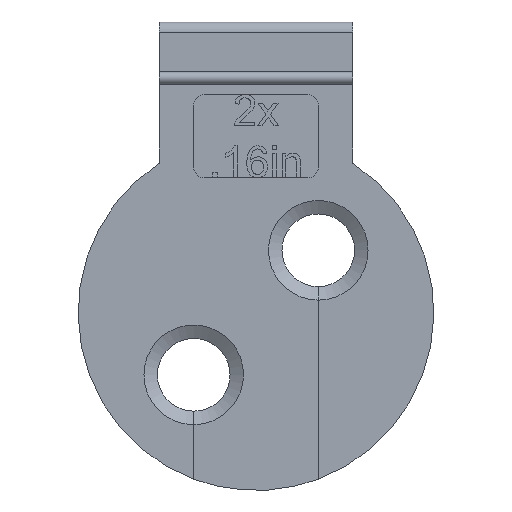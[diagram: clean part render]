
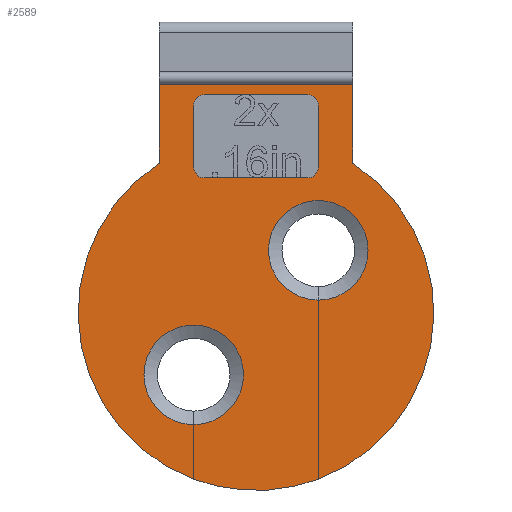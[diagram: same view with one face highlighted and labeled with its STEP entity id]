
A CAD part, left-side view. The second image highlights one B-rep face of the part: STEP entity #2589.
In plain terms, the highlighted planar face has unit normal (-1, 0, 0).
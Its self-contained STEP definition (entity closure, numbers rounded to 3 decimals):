
#75=FACE_BOUND('',#1023,.T.);
#343=LINE('',#4250,#595);
#346=LINE('',#4258,#598);
#349=LINE('',#4266,#601);
#352=LINE('',#4273,#604);
#359=LINE('',#4293,#611);
#363=LINE('',#4302,#615);
#375=LINE('',#4333,#627);
#379=LINE('',#4342,#631);
#390=LINE('',#4433,#642);
#399=LINE('',#4455,#651);
#402=LINE('',#4460,#654);
#595=VECTOR('',#3085,10.);
#598=VECTOR('',#3094,10.);
#601=VECTOR('',#3103,10.);
#604=VECTOR('',#3112,10.);
#611=VECTOR('',#3123,10.);
#615=VECTOR('',#3129,10.);
#627=VECTOR('',#3143,10.);
#631=VECTOR('',#3149,10.);
#642=VECTOR('',#3244,10.);
#651=VECTOR('',#3261,10.);
#654=VECTOR('',#3266,10.);
#744=PLANE('',#2755);
#875=FACE_OUTER_BOUND('',#1022,.T.);
#1022=EDGE_LOOP('',(#2361,#2362,#2363,#2364,#2365,#2366,#2367,#2368,#2369,
#2370,#2371,#2372));
#1023=EDGE_LOOP('',(#2373,#2374,#2375,#2376,#2377,#2378,#2379,#2380));
#1052=CIRCLE('',#2693,0.5);
#1053=CIRCLE('',#2696,0.5);
#1054=CIRCLE('',#2699,0.5);
#1055=CIRCLE('',#2702,0.5);
#1066=CIRCLE('',#2727,8.57);
#1072=CIRCLE('',#2733,8.57);
#1073=CIRCLE('',#2735,8.57);
#1076=CIRCLE('',#2741,2.4);
#1078=CIRCLE('',#2745,2.4);
#1255=VERTEX_POINT('',#4243);
#1256=VERTEX_POINT('',#4245);
#1257=VERTEX_POINT('',#4249);
#1258=VERTEX_POINT('',#4253);
#1259=VERTEX_POINT('',#4257);
#1260=VERTEX_POINT('',#4261);
#1261=VERTEX_POINT('',#4265);
#1262=VERTEX_POINT('',#4269);
#1269=VERTEX_POINT('',#4288);
#1270=VERTEX_POINT('',#4292);
#1273=VERTEX_POINT('',#4299);
#1274=VERTEX_POINT('',#4301);
#1285=VERTEX_POINT('',#4328);
#1286=VERTEX_POINT('',#4332);
#1289=VERTEX_POINT('',#4339);
#1290=VERTEX_POINT('',#4341);
#1296=VERTEX_POINT('',#4374);
#1305=VERTEX_POINT('',#4398);
#1313=VERTEX_POINT('',#4431);
#1322=VERTEX_POINT('',#4454);
#1583=EDGE_CURVE('',#1256,#1255,#1052,.T.);
#1585=EDGE_CURVE('',#1257,#1256,#343,.T.);
#1587=EDGE_CURVE('',#1258,#1257,#1053,.T.);
#1589=EDGE_CURVE('',#1259,#1258,#346,.T.);
#1591=EDGE_CURVE('',#1260,#1259,#1054,.T.);
#1593=EDGE_CURVE('',#1261,#1260,#349,.T.);
#1595=EDGE_CURVE('',#1262,#1261,#1055,.T.);
#1597=EDGE_CURVE('',#1255,#1262,#352,.T.);
#1605=EDGE_CURVE('',#1270,#1269,#359,.T.);
#1609=EDGE_CURVE('',#1274,#1273,#363,.T.);
#1623=EDGE_CURVE('',#1286,#1285,#375,.T.);
#1627=EDGE_CURVE('',#1290,#1289,#379,.T.);
#1644=EDGE_CURVE('',#1290,#1296,#1066,.T.);
#1654=EDGE_CURVE('',#1305,#1269,#1072,.T.);
#1655=EDGE_CURVE('',#1274,#1285,#1073,.T.);
#1658=EDGE_CURVE('',#1289,#1286,#1076,.T.);
#1660=EDGE_CURVE('',#1273,#1270,#1078,.T.);
#1669=EDGE_CURVE('',#1313,#1305,#390,.T.);
#1680=EDGE_CURVE('',#1322,#1313,#399,.T.);
#1683=EDGE_CURVE('',#1296,#1322,#402,.T.);
#2361=ORIENTED_EDGE('',*,*,#1609,.T.);
#2362=ORIENTED_EDGE('',*,*,#1660,.T.);
#2363=ORIENTED_EDGE('',*,*,#1605,.T.);
#2364=ORIENTED_EDGE('',*,*,#1654,.F.);
#2365=ORIENTED_EDGE('',*,*,#1669,.F.);
#2366=ORIENTED_EDGE('',*,*,#1680,.F.);
#2367=ORIENTED_EDGE('',*,*,#1683,.F.);
#2368=ORIENTED_EDGE('',*,*,#1644,.F.);
#2369=ORIENTED_EDGE('',*,*,#1627,.T.);
#2370=ORIENTED_EDGE('',*,*,#1658,.T.);
#2371=ORIENTED_EDGE('',*,*,#1623,.T.);
#2372=ORIENTED_EDGE('',*,*,#1655,.F.);
#2373=ORIENTED_EDGE('',*,*,#1583,.T.);
#2374=ORIENTED_EDGE('',*,*,#1597,.T.);
#2375=ORIENTED_EDGE('',*,*,#1595,.T.);
#2376=ORIENTED_EDGE('',*,*,#1593,.T.);
#2377=ORIENTED_EDGE('',*,*,#1591,.T.);
#2378=ORIENTED_EDGE('',*,*,#1589,.T.);
#2379=ORIENTED_EDGE('',*,*,#1587,.T.);
#2380=ORIENTED_EDGE('',*,*,#1585,.T.);
#2589=ADVANCED_FACE('',(#875,#75),#744,.F.);
#2693=AXIS2_PLACEMENT_3D('',#4246,#3080,#3081);
#2696=AXIS2_PLACEMENT_3D('',#4254,#3089,#3090);
#2699=AXIS2_PLACEMENT_3D('',#4262,#3098,#3099);
#2702=AXIS2_PLACEMENT_3D('',#4270,#3107,#3108);
#2727=AXIS2_PLACEMENT_3D('',#4375,#3191,#3192);
#2733=AXIS2_PLACEMENT_3D('',#4402,#3203,#3204);
#2735=AXIS2_PLACEMENT_3D('',#4404,#3207,#3208);
#2741=AXIS2_PLACEMENT_3D('',#4410,#3219,#3220);
#2745=AXIS2_PLACEMENT_3D('',#4414,#3227,#3228);
#2755=AXIS2_PLACEMENT_3D('',#4459,#3264,#3265);
#3080=DIRECTION('center_axis',(1.,0.,0.));
#3081=DIRECTION('ref_axis',(0.,-1.,0.));
#3085=DIRECTION('',(0.,1.,0.));
#3089=DIRECTION('center_axis',(1.,0.,0.));
#3090=DIRECTION('ref_axis',(0.,0.,1.));
#3094=DIRECTION('',(0.,0.,-1.));
#3098=DIRECTION('center_axis',(1.,0.,0.));
#3099=DIRECTION('ref_axis',(0.,1.,0.));
#3103=DIRECTION('',(0.,-1.,0.));
#3107=DIRECTION('center_axis',(1.,0.,0.));
#3108=DIRECTION('ref_axis',(0.,0.,-1.));
#3112=DIRECTION('',(0.,0.,1.));
#3123=DIRECTION('',(0.,0.,-1.));
#3129=DIRECTION('',(0.,0.,1.));
#3143=DIRECTION('',(0.,0.,-1.));
#3149=DIRECTION('',(0.,0.,1.));
#3191=DIRECTION('center_axis',(1.,0.,0.));
#3192=DIRECTION('ref_axis',(0.,0.,-1.));
#3203=DIRECTION('center_axis',(1.,0.,0.));
#3204=DIRECTION('ref_axis',(0.,0.,-1.));
#3207=DIRECTION('center_axis',(1.,0.,0.));
#3208=DIRECTION('ref_axis',(0.,0.,-1.));
#3219=DIRECTION('center_axis',(1.,0.,0.));
#3220=DIRECTION('ref_axis',(0.,0.,-1.));
#3227=DIRECTION('center_axis',(1.,0.,0.));
#3228=DIRECTION('ref_axis',(0.,0.,1.));
#3244=DIRECTION('',(0.,0.,-1.));
#3261=DIRECTION('',(0.,-1.,0.));
#3264=DIRECTION('center_axis',(1.,0.,0.));
#3265=DIRECTION('ref_axis',(0.,0.,-1.));
#3266=DIRECTION('',(0.,0.,1.));
#4243=CARTESIAN_POINT('',(-0.8,3.,7.));
#4245=CARTESIAN_POINT('',(-0.8,2.5,6.5));
#4246=CARTESIAN_POINT('Origin',(-0.8,2.5,7.));
#4249=CARTESIAN_POINT('',(-0.8,-2.5,6.5));
#4250=CARTESIAN_POINT('',(-0.8,1.25,6.5));
#4253=CARTESIAN_POINT('',(-0.8,-3.,7.));
#4254=CARTESIAN_POINT('Origin',(-0.8,-2.5,7.));
#4257=CARTESIAN_POINT('',(-0.8,-3.,10.));
#4258=CARTESIAN_POINT('',(-0.8,-3.,3.5));
#4261=CARTESIAN_POINT('',(-0.8,-2.5,10.5));
#4262=CARTESIAN_POINT('Origin',(-0.8,-2.5,10.));
#4265=CARTESIAN_POINT('',(-0.8,2.5,10.5));
#4266=CARTESIAN_POINT('',(-0.8,-1.25,10.5));
#4269=CARTESIAN_POINT('',(-0.8,3.,10.));
#4270=CARTESIAN_POINT('Origin',(-0.8,2.5,10.));
#4273=CARTESIAN_POINT('',(-0.8,3.,5.));
#4288=CARTESIAN_POINT('',(-0.8,-3.005,-8.026));
#4292=CARTESIAN_POINT('',(-0.8,-3.005,0.6));
#4293=CARTESIAN_POINT('',(-0.8,-3.005,0.625));
#4299=CARTESIAN_POINT('',(-0.8,-2.995,0.6));
#4301=CARTESIAN_POINT('',(-0.8,-2.995,-8.03));
#4302=CARTESIAN_POINT('',(-0.8,-2.995,-4.015));
#4328=CARTESIAN_POINT('',(-0.8,2.995,-8.03));
#4332=CARTESIAN_POINT('',(-0.8,2.995,-5.4));
#4333=CARTESIAN_POINT('',(-0.8,2.995,-2.375));
#4339=CARTESIAN_POINT('',(-0.8,3.005,-5.4));
#4341=CARTESIAN_POINT('',(-0.8,3.005,-8.026));
#4342=CARTESIAN_POINT('',(-0.8,3.005,-4.013));
#4374=CARTESIAN_POINT('',(-0.8,4.65,7.199));
#4375=CARTESIAN_POINT('Origin',(-0.8,0.,
0.));
#4398=CARTESIAN_POINT('',(-0.8,-4.65,7.199));
#4402=CARTESIAN_POINT('Origin',(-0.8,0.,
0.));
#4404=CARTESIAN_POINT('Origin',(-0.8,0.,
0.));
#4410=CARTESIAN_POINT('Origin',(-0.8,3.,-3.));
#4414=CARTESIAN_POINT('Origin',(-0.8,-3.,3.));
#4431=CARTESIAN_POINT('',(-0.8,-4.65,11.));
#4433=CARTESIAN_POINT('',(-0.8,-4.65,7.115));
#4454=CARTESIAN_POINT('',(-0.8,4.65,11.));
#4455=CARTESIAN_POINT('',(-0.8,-2.325,11.));
#4459=CARTESIAN_POINT('Origin',(-0.8,0.,
0.));
#4460=CARTESIAN_POINT('',(-0.8,4.65,11.));
